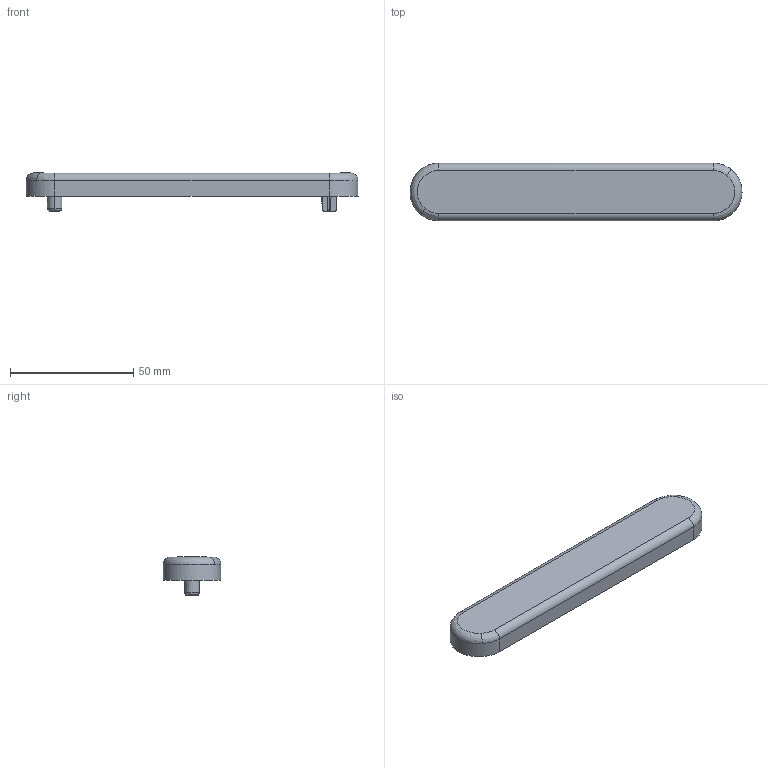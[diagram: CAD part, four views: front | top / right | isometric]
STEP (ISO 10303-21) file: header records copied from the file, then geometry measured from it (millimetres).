
FILE_DESCRIPTION(('CATIA V5 STEP Exchange','CAx-IF Rec.Pracs.--- Model Styling and Organization---1.5--- 2016-08-15','CAx-IF Rec.Pracs.---Supplemental Geometry---1.0---2011-11-01','CAx-IF Rec.Pracs.--- Composite Materials ---1.1---2010-07-15'),'2;1');
FILE_NAME('E:\tmp\ddx\2011205\HELLA_3D_data_LED_side_marker_lamp_009-226.stp','2022-01-18T07:01:35+00:00',('none'),('none'),'CATIA Version 5-6 Release 2020 SP3 HF9','CATIA V5 STEP AP214 Edition 3 v2','none');
FILE_SCHEMA(('AUTOMOTIVE_DESIGN { 1 0 10303 214 3 1 1 1 }'));
Length unit declared in the file: millimetre
Products named in the file (1): 10001577414_D10_001
Bounding box: 134.9 x 23.4 x 15.5 mm (x, y, z)
Volume: 28418.8 mm3; surface area: 8777.4 mm2
Topology: 1 solids, 1 shells, 43 faces, 113 edges, 74 vertices
Faces by surface type: plane 15, bspline 13, cone 8, cylinder 7
Entity records: 1899 total; most frequent: CARTESIAN_POINT 969, ORIENTED_EDGE 226, EDGE_CURVE 113, DIRECTION 112, VERTEX_POINT 74, B_SPLINE_CURVE_WITH_KNOTS 55, AXIS2_PLACEMENT_3D 45, EDGE_LOOP 45
